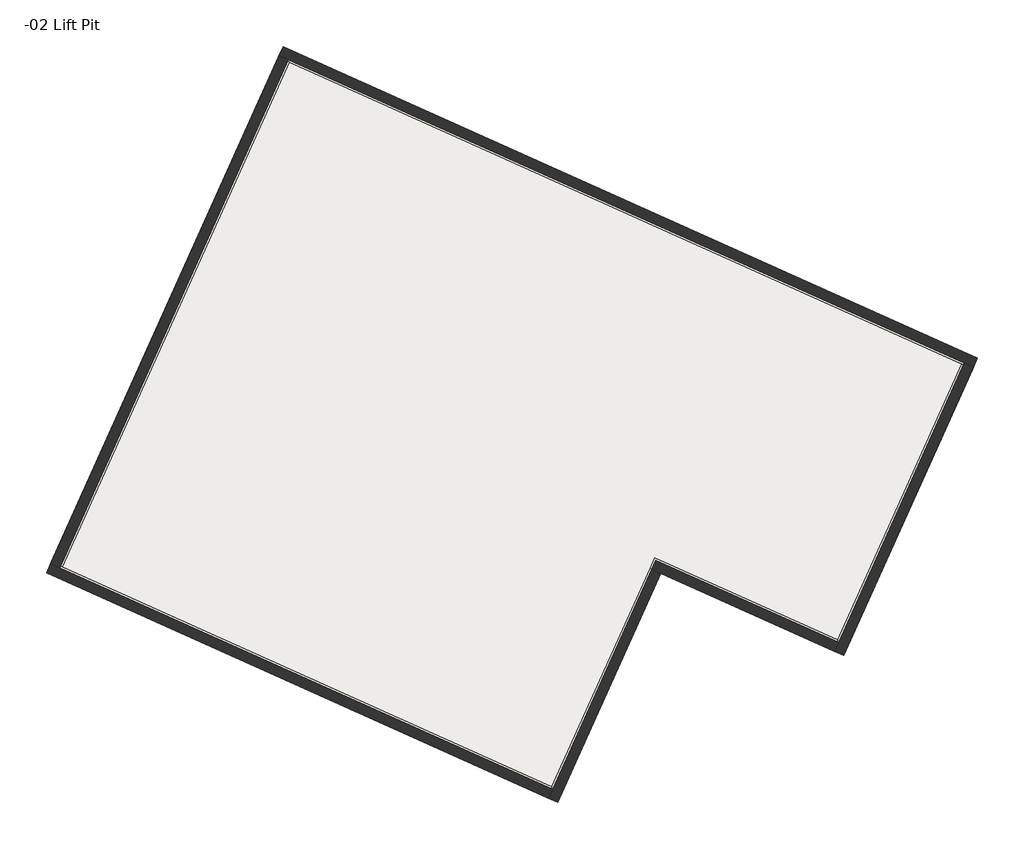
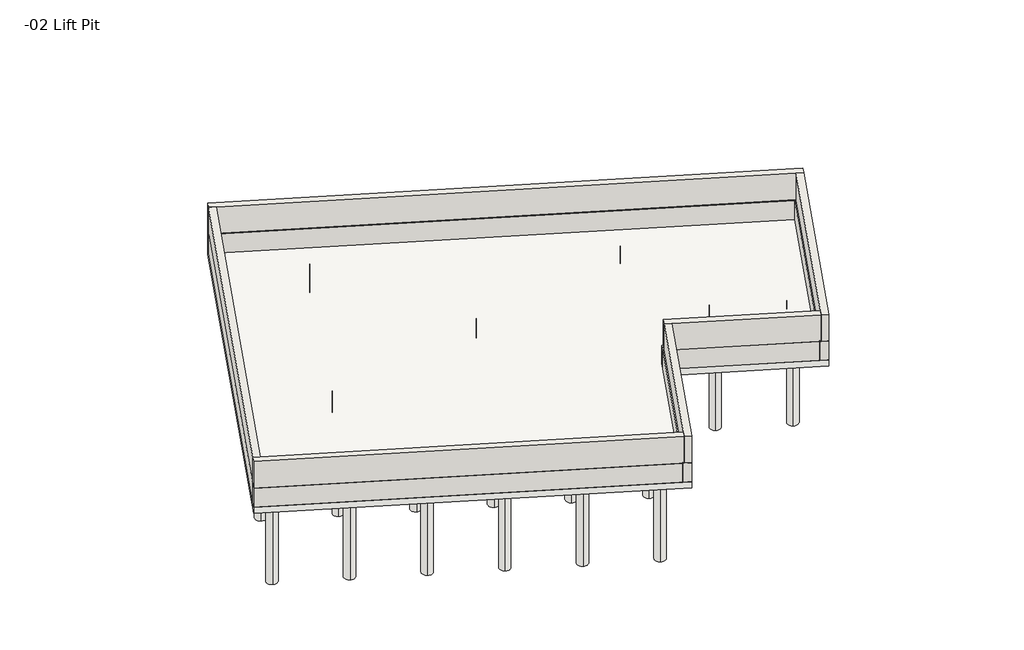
# One storey, incomplete: 29 slabs, 12 walls.
"""IFC4 building model written with IfcOpenShell, lengths in millimetres."""

from ifc_helpers import new_model, si_unit, point, frame, frame_2d, origin, place, context, project, spatial, polyline, circle_curve, trimmed, segment, composite_curve, outline, extrude, faceted_brep, element, save

model = new_model("IFC4")

# Units and contexts
model_context = context("Model", 3, world=origin())
ifc_project = project(units=[si_unit("LENGTHUNIT", "METRE", prefix="MILLI")], contexts=[model_context])

# Site, building, storey
site = spatial("IfcSite", under=ifc_project)
building = spatial("IfcBuilding", under=site)
storey = spatial("IfcBuildingStorey", under=building, Name="-02 Lift Pit", Elevation=-2133.6)

# Slabs
placement = place(None, origin())
element("IfcSlab", 1, ObjectType="10\" Foundation Slab", at=placement, inside=storey, context=model_context, shape_type="Brep", body=[
    faceted_brep([(61413.0546278, -13159.9258537, -2387.6), (57962.8673107, -20840.7, -2387.6), (53236.2370668, -18717.5078049, -2387.6), (50577.0429205, -24637.3804878, -2387.6), (37370.2819449, -18704.9317073, -2387.6), (43479.6634083, -5104.284878, -2387.6), (61413.0546278, -13159.9258537, -2133.6), (43479.6634083, -5104.284878, -2133.6), (43354.7697498, -5382.3219512, -2133.6), (37495.1756034, -18426.8946341, -2133.6), (37370.2819449, -18704.9317073, -2133.6), (50299.0058473, -24512.4868293, -2133.6), (50577.0429205, -24637.3804878, -2133.6), (53236.2370668, -18717.5078049, -2133.6), (57684.8302376, -20715.8063415, -2133.6), (57962.8673107, -20840.7, -2133.6), (61288.1609693, -13437.9629268, -2133.6)], [[[0, 1, 2, 3, 4, 5]], [[6, 7, 8, 9, 10, 11, 12, 13, 14, 15, 16]], [[1, 0, 6, 16, 15]], [[2, 1, 15, 14, 13]], [[3, 2, 13, 12]], [[4, 3, 12, 11, 10]], [[5, 4, 10, 9, 8, 7]], [[0, 5, 7, 6]]]),
])
element("IfcSlab", 2, ObjectType="Round In Situ Concrete Pile : 16\" Diameter 16'", at=placement, inside=storey, context=model_context, shape_type="SweptSolid", body=[
    extrude(outline(composite_curve([segment(trimmed(circle_curve(frame_2d((43939.0936522, -6313.0770732)), 203.2), [point((43855.8312132, -6498.435122))], [point((44022.3560912, -6127.7190244))], False, "CARTESIAN"), True, "CONTINUOUS"), segment(trimmed(circle_curve(frame_2d((43939.0936522, -6313.0770732)), 203.2), [point((44022.3560912, -6127.7190244))], [point((43855.8312132, -6498.435122))], False, "CARTESIAN"), True, "CONTINUOUS")], self_intersect=False)), frame((0.0, 0.0, -7264.4), z_axis=(0.0, 0.0, 1.0), x_axis=(1.0, 0.0, 0.0)), (0.0, 0.0, 1.0), 4876.8),
])
element("IfcSlab", 3, ObjectType="Round In Situ Concrete Pile : 16\" Diameter 16'", at=placement, inside=storey, context=model_context, shape_type="SweptSolid", body=[
    extrude(outline(composite_curve([segment(trimmed(circle_curve(frame_2d((46278.2460285, -7363.8193171)), 203.2), [point((46194.9835895, -7549.1773659))], [point((46361.5084675, -7178.4612683))], False, "CARTESIAN"), True, "CONTINUOUS"), segment(trimmed(circle_curve(frame_2d((46278.2460285, -7363.8193171)), 203.2), [point((46361.5084675, -7178.4612683))], [point((46194.9835895, -7549.1773659))], False, "CARTESIAN"), True, "CONTINUOUS")], self_intersect=False)), frame((0.0, 0.0, -7264.4), z_axis=(0.0, 0.0, 1.0), x_axis=(1.0, 0.0, 0.0)), (0.0, 0.0, 1.0), 4876.8),
])
element("IfcSlab", 4, ObjectType="Round In Situ Concrete Pile : 16\" Diameter 16'", at=placement, inside=storey, context=model_context, shape_type="SweptSolid", body=[
    extrude(outline(composite_curve([segment(trimmed(circle_curve(frame_2d((48617.3984048, -8414.561561)), 203.2), [point((48534.1359658, -8599.9196098))], [point((48700.6608438, -8229.2035122))], False, "CARTESIAN"), True, "CONTINUOUS"), segment(trimmed(circle_curve(frame_2d((48617.3984048, -8414.561561)), 203.2), [point((48700.6608438, -8229.2035122))], [point((48534.1359658, -8599.9196098))], False, "CARTESIAN"), True, "CONTINUOUS")], self_intersect=False)), frame((0.0, 0.0, -7264.4), z_axis=(0.0, 0.0, 1.0), x_axis=(1.0, 0.0, 0.0)), (0.0, 0.0, 1.0), 4876.8),
])
element("IfcSlab", 5, ObjectType="Round In Situ Concrete Pile : 16\" Diameter 16'", at=placement, inside=storey, context=model_context, shape_type="SweptSolid", body=[
    extrude(outline(composite_curve([segment(trimmed(circle_curve(frame_2d((50956.5507811, -9465.3038049)), 203.2), [point((50873.2883421, -9650.6618537))], [point((51039.8132202, -9279.9457561))], False, "CARTESIAN"), True, "CONTINUOUS"), segment(trimmed(circle_curve(frame_2d((50956.5507811, -9465.3038049)), 203.2), [point((51039.8132202, -9279.9457561))], [point((50873.2883421, -9650.6618537))], False, "CARTESIAN"), True, "CONTINUOUS")], self_intersect=False)), frame((0.0, 0.0, -7264.4), z_axis=(0.0, 0.0, 1.0), x_axis=(1.0, 0.0, 0.0)), (0.0, 0.0, 1.0), 4876.8),
])
element("IfcSlab", 6, ObjectType="Round In Situ Concrete Pile : 16\" Diameter 16'", at=placement, inside=storey, context=model_context, shape_type="SweptSolid", body=[
    extrude(outline(composite_curve([segment(trimmed(circle_curve(frame_2d((53295.7031574, -10516.0460488)), 203.2), [point((53212.4407184, -10701.4040976))], [point((53378.9655965, -10330.688))], False, "CARTESIAN"), True, "CONTINUOUS"), segment(trimmed(circle_curve(frame_2d((53295.7031574, -10516.0460488)), 203.2), [point((53378.9655965, -10330.688))], [point((53212.4407184, -10701.4040976))], False, "CARTESIAN"), True, "CONTINUOUS")], self_intersect=False)), frame((0.0, 0.0, -7264.4), z_axis=(0.0, 0.0, 1.0), x_axis=(1.0, 0.0, 0.0)), (0.0, 0.0, 1.0), 4876.8),
])
element("IfcSlab", 7, ObjectType="Round In Situ Concrete Pile : 16\" Diameter 16'", at=placement, inside=storey, context=model_context, shape_type="SweptSolid", body=[
    extrude(outline(composite_curve([segment(trimmed(circle_curve(frame_2d((55634.8555337, -11566.7882927)), 203.2), [point((55551.5930947, -11752.1463415))], [point((55718.1179728, -11381.4302439))], False, "CARTESIAN"), True, "CONTINUOUS"), segment(trimmed(circle_curve(frame_2d((55634.8555337, -11566.7882927)), 203.2), [point((55718.1179728, -11381.4302439))], [point((55551.5930947, -11752.1463415))], False, "CARTESIAN"), True, "CONTINUOUS")], self_intersect=False)), frame((0.0, 0.0, -7264.4), z_axis=(0.0, 0.0, 1.0), x_axis=(1.0, 0.0, 0.0)), (0.0, 0.0, 1.0), 4876.8),
])
element("IfcSlab", 8, ObjectType="Round In Situ Concrete Pile : 16\" Diameter 16'", at=placement, inside=storey, context=model_context, shape_type="SweptSolid", body=[
    extrude(outline(composite_curve([segment(trimmed(circle_curve(frame_2d((57974.00791, -12617.5305366)), 203.2), [point((57890.745471, -12802.8885854))], [point((58057.2703491, -12432.1724878))], False, "CARTESIAN"), True, "CONTINUOUS"), segment(trimmed(circle_curve(frame_2d((57974.00791, -12617.5305366)), 203.2), [point((58057.2703491, -12432.1724878))], [point((57890.745471, -12802.8885854))], False, "CARTESIAN"), True, "CONTINUOUS")], self_intersect=False)), frame((0.0, 0.0, -7264.4), z_axis=(0.0, 0.0, 1.0), x_axis=(1.0, 0.0, 0.0)), (0.0, 0.0, 1.0), 4876.8),
])
element("IfcSlab", 9, ObjectType="Round In Situ Concrete Pile : 16\" Diameter 16'", at=placement, inside=storey, context=model_context, shape_type="SweptSolid", body=[
    extrude(outline(composite_curve([segment(trimmed(circle_curve(frame_2d((60313.1602864, -13668.2727805)), 203.2), [point((60229.8978473, -13853.6308293))], [point((60396.4227254, -13482.9147317))], False, "CARTESIAN"), True, "CONTINUOUS"), segment(trimmed(circle_curve(frame_2d((60313.1602864, -13668.2727805)), 203.2), [point((60396.4227254, -13482.9147317))], [point((60229.8978473, -13853.6308293))], False, "CARTESIAN"), True, "CONTINUOUS")], self_intersect=False)), frame((0.0, 0.0, -7264.4), z_axis=(0.0, 0.0, 1.0), x_axis=(1.0, 0.0, 0.0)), (0.0, 0.0, 1.0), 4876.8),
])
element("IfcSlab", 10, ObjectType="Round In Situ Concrete Pile : 16\" Diameter 16'", at=placement, inside=storey, context=model_context, shape_type="SweptSolid", body=[
    extrude(outline(composite_curve([segment(trimmed(circle_curve(frame_2d((42440.3697498, -9649.5219512)), 203.2), [point((42357.1073107, -9834.88))], [point((42523.6321888, -9464.1639024))], False, "CARTESIAN"), True, "CONTINUOUS"), segment(trimmed(circle_curve(frame_2d((42440.3697498, -9649.5219512)), 203.2), [point((42523.6321888, -9464.1639024))], [point((42357.1073107, -9834.88))], False, "CARTESIAN"), True, "CONTINUOUS")], self_intersect=False)), frame((0.0, 0.0, -7264.4), z_axis=(0.0, 0.0, 1.0), x_axis=(1.0, 0.0, 0.0)), (0.0, 0.0, 1.0), 4876.8),
])
element("IfcSlab", 11, ObjectType="Round In Situ Concrete Pile : 16\" Diameter 16'", at=placement, inside=storey, context=model_context, shape_type="SweptSolid", body=[
    extrude(outline(composite_curve([segment(trimmed(circle_curve(frame_2d((44779.5221261, -10700.2641951)), 203.2), [point((44696.2596871, -10885.6222439))], [point((44862.7845651, -10514.9061463))], False, "CARTESIAN"), True, "CONTINUOUS"), segment(trimmed(circle_curve(frame_2d((44779.5221261, -10700.2641951)), 203.2), [point((44862.7845651, -10514.9061463))], [point((44696.2596871, -10885.6222439))], False, "CARTESIAN"), True, "CONTINUOUS")], self_intersect=False)), frame((0.0, 0.0, -7264.4), z_axis=(0.0, 0.0, 1.0), x_axis=(1.0, 0.0, 0.0)), (0.0, 0.0, 1.0), 4876.8),
])
element("IfcSlab", 12, ObjectType="Round In Situ Concrete Pile : 16\" Diameter 16'", at=placement, inside=storey, context=model_context, shape_type="SweptSolid", body=[
    extrude(outline(composite_curve([segment(trimmed(circle_curve(frame_2d((47118.6745024, -11751.006439)), 203.2), [point((47035.4120634, -11936.3644878))], [point((47201.9369414, -11565.6483902))], False, "CARTESIAN"), True, "CONTINUOUS"), segment(trimmed(circle_curve(frame_2d((47118.6745024, -11751.006439)), 203.2), [point((47201.9369414, -11565.6483902))], [point((47035.4120634, -11936.3644878))], False, "CARTESIAN"), True, "CONTINUOUS")], self_intersect=False)), frame((0.0, 0.0, -7264.4), z_axis=(0.0, 0.0, 1.0), x_axis=(1.0, 0.0, 0.0)), (0.0, 0.0, 1.0), 4876.8),
])
element("IfcSlab", 13, ObjectType="Round In Situ Concrete Pile : 16\" Diameter 16'", at=placement, inside=storey, context=model_context, shape_type="SweptSolid", body=[
    extrude(outline(composite_curve([segment(trimmed(circle_curve(frame_2d((49457.8268787, -12801.7486829)), 203.2), [point((49374.5644397, -12987.1067317))], [point((49541.0893177, -12616.3906341))], False, "CARTESIAN"), True, "CONTINUOUS"), segment(trimmed(circle_curve(frame_2d((49457.8268787, -12801.7486829)), 203.2), [point((49541.0893177, -12616.3906341))], [point((49374.5644397, -12987.1067317))], False, "CARTESIAN"), True, "CONTINUOUS")], self_intersect=False)), frame((0.0, 0.0, -7264.4), z_axis=(0.0, 0.0, 1.0), x_axis=(1.0, 0.0, 0.0)), (0.0, 0.0, 1.0), 4876.8),
])
element("IfcSlab", 14, ObjectType="Round In Situ Concrete Pile : 16\" Diameter 16'", at=placement, inside=storey, context=model_context, shape_type="SweptSolid", body=[
    extrude(outline(composite_curve([segment(trimmed(circle_curve(frame_2d((51796.979255, -13852.4909268)), 203.2), [point((51713.716816, -14037.8489756))], [point((51880.241694, -13667.132878))], False, "CARTESIAN"), True, "CONTINUOUS"), segment(trimmed(circle_curve(frame_2d((51796.979255, -13852.4909268)), 203.2), [point((51880.241694, -13667.132878))], [point((51713.716816, -14037.8489756))], False, "CARTESIAN"), True, "CONTINUOUS")], self_intersect=False)), frame((0.0, 0.0, -7264.4), z_axis=(0.0, 0.0, 1.0), x_axis=(1.0, 0.0, 0.0)), (0.0, 0.0, 1.0), 4876.8),
])
element("IfcSlab", 15, ObjectType="Round In Situ Concrete Pile : 16\" Diameter 16'", at=placement, inside=storey, context=model_context, shape_type="SweptSolid", body=[
    extrude(outline(composite_curve([segment(trimmed(circle_curve(frame_2d((54136.1316313, -14903.2331707)), 203.2), [point((54052.8691923, -15088.5912195))], [point((54219.3940703, -14717.875122))], False, "CARTESIAN"), True, "CONTINUOUS"), segment(trimmed(circle_curve(frame_2d((54136.1316313, -14903.2331707)), 203.2), [point((54219.3940703, -14717.875122))], [point((54052.8691923, -15088.5912195))], False, "CARTESIAN"), True, "CONTINUOUS")], self_intersect=False)), frame((0.0, 0.0, -7264.4), z_axis=(0.0, 0.0, 1.0), x_axis=(1.0, 0.0, 0.0)), (0.0, 0.0, 1.0), 4876.8),
])
element("IfcSlab", 16, ObjectType="Round In Situ Concrete Pile : 16\" Diameter 16'", at=placement, inside=storey, context=model_context, shape_type="SweptSolid", body=[
    extrude(outline(composite_curve([segment(trimmed(circle_curve(frame_2d((56475.2840076, -15953.9754146)), 203.2), [point((56392.0215686, -16139.3334634))], [point((56558.5464466, -15768.6173659))], False, "CARTESIAN"), True, "CONTINUOUS"), segment(trimmed(circle_curve(frame_2d((56475.2840076, -15953.9754146)), 203.2), [point((56558.5464466, -15768.6173659))], [point((56392.0215686, -16139.3334634))], False, "CARTESIAN"), True, "CONTINUOUS")], self_intersect=False)), frame((0.0, 0.0, -7264.4), z_axis=(0.0, 0.0, 1.0), x_axis=(1.0, 0.0, 0.0)), (0.0, 0.0, 1.0), 4876.8),
])
element("IfcSlab", 17, ObjectType="Round In Situ Concrete Pile : 16\" Diameter 16'", at=placement, inside=storey, context=model_context, shape_type="SweptSolid", body=[
    extrude(outline(composite_curve([segment(trimmed(circle_curve(frame_2d((58814.4363839, -17004.7176585)), 203.2), [point((58731.1739449, -17190.0757073))], [point((58897.6988229, -16819.3596098))], False, "CARTESIAN"), True, "CONTINUOUS"), segment(trimmed(circle_curve(frame_2d((58814.4363839, -17004.7176585)), 203.2), [point((58897.6988229, -16819.3596098))], [point((58731.1739449, -17190.0757073))], False, "CARTESIAN"), True, "CONTINUOUS")], self_intersect=False)), frame((0.0, 0.0, -7264.4), z_axis=(0.0, 0.0, 1.0), x_axis=(1.0, 0.0, 0.0)), (0.0, 0.0, 1.0), 4876.8),
])
element("IfcSlab", 18, ObjectType="Round In Situ Concrete Pile : 16\" Diameter 16'", at=placement, inside=storey, context=model_context, shape_type="SweptSolid", body=[
    extrude(outline(composite_curve([segment(trimmed(circle_curve(frame_2d((40941.6458473, -12985.9668293)), 203.2), [point((40858.3834083, -13171.324878))], [point((41024.9082864, -12800.6087805))], False, "CARTESIAN"), True, "CONTINUOUS"), segment(trimmed(circle_curve(frame_2d((40941.6458473, -12985.9668293)), 203.2), [point((41024.9082864, -12800.6087805))], [point((40858.3834083, -13171.324878))], False, "CARTESIAN"), True, "CONTINUOUS")], self_intersect=False)), frame((0.0, 0.0, -7264.4), z_axis=(0.0, 0.0, 1.0), x_axis=(1.0, 0.0, 0.0)), (0.0, 0.0, 1.0), 4876.8),
])
element("IfcSlab", 19, ObjectType="Round In Situ Concrete Pile : 16\" Diameter 16'", at=placement, inside=storey, context=model_context, shape_type="SweptSolid", body=[
    extrude(outline(composite_curve([segment(trimmed(circle_curve(frame_2d((43280.7982236, -14036.7090732)), 203.2), [point((43197.5357846, -14222.067122))], [point((43364.0606627, -13851.3510244))], False, "CARTESIAN"), True, "CONTINUOUS"), segment(trimmed(circle_curve(frame_2d((43280.7982236, -14036.7090732)), 203.2), [point((43364.0606627, -13851.3510244))], [point((43197.5357846, -14222.067122))], False, "CARTESIAN"), True, "CONTINUOUS")], self_intersect=False)), frame((0.0, 0.0, -7264.4), z_axis=(0.0, 0.0, 1.0), x_axis=(1.0, 0.0, 0.0)), (0.0, 0.0, 1.0), 4876.8),
])
element("IfcSlab", 20, ObjectType="Round In Situ Concrete Pile : 16\" Diameter 16'", at=placement, inside=storey, context=model_context, shape_type="SweptSolid", body=[
    extrude(outline(composite_curve([segment(trimmed(circle_curve(frame_2d((45619.9505999, -15087.4513171)), 203.2), [point((45536.6881609, -15272.8093659))], [point((45703.213039, -14902.0932683))], False, "CARTESIAN"), True, "CONTINUOUS"), segment(trimmed(circle_curve(frame_2d((45619.9505999, -15087.4513171)), 203.2), [point((45703.213039, -14902.0932683))], [point((45536.6881609, -15272.8093659))], False, "CARTESIAN"), True, "CONTINUOUS")], self_intersect=False)), frame((0.0, 0.0, -7264.4), z_axis=(0.0, 0.0, 1.0), x_axis=(1.0, 0.0, 0.0)), (0.0, 0.0, 1.0), 4876.8),
])
element("IfcSlab", 21, ObjectType="Round In Situ Concrete Pile : 16\" Diameter 16'", at=placement, inside=storey, context=model_context, shape_type="SweptSolid", body=[
    extrude(outline(composite_curve([segment(trimmed(circle_curve(frame_2d((47959.1029762, -16138.193561)), 203.2), [point((47875.8405372, -16323.5516098))], [point((48042.3654153, -15952.8355122))], False, "CARTESIAN"), True, "CONTINUOUS"), segment(trimmed(circle_curve(frame_2d((47959.1029762, -16138.193561)), 203.2), [point((48042.3654153, -15952.8355122))], [point((47875.8405372, -16323.5516098))], False, "CARTESIAN"), True, "CONTINUOUS")], self_intersect=False)), frame((0.0, 0.0, -7264.4), z_axis=(0.0, 0.0, 1.0), x_axis=(1.0, 0.0, 0.0)), (0.0, 0.0, 1.0), 4876.8),
])
element("IfcSlab", 22, ObjectType="Round In Situ Concrete Pile : 16\" Diameter 16'", at=placement, inside=storey, context=model_context, shape_type="SweptSolid", body=[
    extrude(outline(composite_curve([segment(trimmed(circle_curve(frame_2d((50298.2553526, -17188.9358049)), 203.2), [point((50214.9929135, -17374.2938537))], [point((50381.5177916, -17003.5777561))], False, "CARTESIAN"), True, "CONTINUOUS"), segment(trimmed(circle_curve(frame_2d((50298.2553526, -17188.9358049)), 203.2), [point((50381.5177916, -17003.5777561))], [point((50214.9929135, -17374.2938537))], False, "CARTESIAN"), True, "CONTINUOUS")], self_intersect=False)), frame((0.0, 0.0, -7264.4), z_axis=(0.0, 0.0, 1.0), x_axis=(1.0, 0.0, 0.0)), (0.0, 0.0, 1.0), 4876.8),
])
element("IfcSlab", 23, ObjectType="Round In Situ Concrete Pile : 16\" Diameter 16'", at=placement, inside=storey, context=model_context, shape_type="SweptSolid", body=[
    extrude(outline(composite_curve([segment(trimmed(circle_curve(frame_2d((52637.4077289, -18239.6780488)), 203.2), [point((52554.1452898, -18425.0360976))], [point((52720.6701679, -18054.32))], False, "CARTESIAN"), True, "CONTINUOUS"), segment(trimmed(circle_curve(frame_2d((52637.4077289, -18239.6780488)), 203.2), [point((52720.6701679, -18054.32))], [point((52554.1452898, -18425.0360976))], False, "CARTESIAN"), True, "CONTINUOUS")], self_intersect=False)), frame((0.0, 0.0, -7264.4), z_axis=(0.0, 0.0, 1.0), x_axis=(1.0, 0.0, 0.0)), (0.0, 0.0, 1.0), 4876.8),
])
element("IfcSlab", 24, ObjectType="Round In Situ Concrete Pile : 16\" Diameter 16'", at=placement, inside=storey, context=model_context, shape_type="SweptSolid", body=[
    extrude(outline(composite_curve([segment(trimmed(circle_curve(frame_2d((39442.9219449, -16322.4117073)), 203.2), [point((39359.6595059, -16507.7697561))], [point((39526.1843839, -16137.0536585))], False, "CARTESIAN"), True, "CONTINUOUS"), segment(trimmed(circle_curve(frame_2d((39442.9219449, -16322.4117073)), 203.2), [point((39526.1843839, -16137.0536585))], [point((39359.6595059, -16507.7697561))], False, "CARTESIAN"), True, "CONTINUOUS")], self_intersect=False)), frame((0.0, 0.0, -7264.4), z_axis=(0.0, 0.0, 1.0), x_axis=(1.0, 0.0, 0.0)), (0.0, 0.0, 1.0), 4876.8),
])
element("IfcSlab", 25, ObjectType="Round In Situ Concrete Pile : 16\" Diameter 16'", at=placement, inside=storey, context=model_context, shape_type="SweptSolid", body=[
    extrude(outline(composite_curve([segment(trimmed(circle_curve(frame_2d((41782.0743212, -17373.1539512)), 203.2), [point((41698.8118822, -17558.512))], [point((41865.3367602, -17187.7959024))], False, "CARTESIAN"), True, "CONTINUOUS"), segment(trimmed(circle_curve(frame_2d((41782.0743212, -17373.1539512)), 203.2), [point((41865.3367602, -17187.7959024))], [point((41698.8118822, -17558.512))], False, "CARTESIAN"), True, "CONTINUOUS")], self_intersect=False)), frame((0.0, 0.0, -7264.4), z_axis=(0.0, 0.0, 1.0), x_axis=(1.0, 0.0, 0.0)), (0.0, 0.0, 1.0), 4876.8),
])
element("IfcSlab", 26, ObjectType="Round In Situ Concrete Pile : 16\" Diameter 16'", at=placement, inside=storey, context=model_context, shape_type="SweptSolid", body=[
    extrude(outline(composite_curve([segment(trimmed(circle_curve(frame_2d((44121.2266975, -18423.8961951)), 203.2), [point((44037.9642585, -18609.2542439))], [point((44204.4891365, -18238.5381463))], False, "CARTESIAN"), True, "CONTINUOUS"), segment(trimmed(circle_curve(frame_2d((44121.2266975, -18423.8961951)), 203.2), [point((44204.4891365, -18238.5381463))], [point((44037.9642585, -18609.2542439))], False, "CARTESIAN"), True, "CONTINUOUS")], self_intersect=False)), frame((0.0, 0.0, -7264.4), z_axis=(0.0, 0.0, 1.0), x_axis=(1.0, 0.0, 0.0)), (0.0, 0.0, 1.0), 4876.8),
])
element("IfcSlab", 27, ObjectType="Round In Situ Concrete Pile : 16\" Diameter 16'", at=placement, inside=storey, context=model_context, shape_type="SweptSolid", body=[
    extrude(outline(composite_curve([segment(trimmed(circle_curve(frame_2d((46460.3790738, -19474.638439)), 203.2), [point((46377.1166348, -19659.9964878))], [point((46543.6415128, -19289.2803902))], False, "CARTESIAN"), True, "CONTINUOUS"), segment(trimmed(circle_curve(frame_2d((46460.3790738, -19474.638439)), 203.2), [point((46543.6415128, -19289.2803902))], [point((46377.1166348, -19659.9964878))], False, "CARTESIAN"), True, "CONTINUOUS")], self_intersect=False)), frame((0.0, 0.0, -7264.4), z_axis=(0.0, 0.0, 1.0), x_axis=(1.0, 0.0, 0.0)), (0.0, 0.0, 1.0), 4876.8),
])
element("IfcSlab", 28, ObjectType="Round In Situ Concrete Pile : 16\" Diameter 16'", at=placement, inside=storey, context=model_context, shape_type="SweptSolid", body=[
    extrude(outline(composite_curve([segment(trimmed(circle_curve(frame_2d((48799.5314501, -20525.3806829)), 203.2), [point((48716.2690111, -20710.7387317))], [point((48882.7938891, -20340.0226341))], False, "CARTESIAN"), True, "CONTINUOUS"), segment(trimmed(circle_curve(frame_2d((48799.5314501, -20525.3806829)), 203.2), [point((48882.7938891, -20340.0226341))], [point((48716.2690111, -20710.7387317))], False, "CARTESIAN"), True, "CONTINUOUS")], self_intersect=False)), frame((0.0, 0.0, -7264.4), z_axis=(0.0, 0.0, 1.0), x_axis=(1.0, 0.0, 0.0)), (0.0, 0.0, 1.0), 4876.8),
])
element("IfcSlab", 29, ObjectType="Round In Situ Concrete Pile : 16\" Diameter 16'", at=placement, inside=storey, context=model_context, shape_type="SweptSolid", body=[
    extrude(outline(composite_curve([segment(trimmed(circle_curve(frame_2d((51138.6838264, -21576.1229268)), 203.2), [point((51055.4213874, -21761.4809756))], [point((51221.9462654, -21390.764878))], False, "CARTESIAN"), True, "CONTINUOUS"), segment(trimmed(circle_curve(frame_2d((51138.6838264, -21576.1229268)), 203.2), [point((51221.9462654, -21390.764878))], [point((51055.4213874, -21761.4809756))], False, "CARTESIAN"), True, "CONTINUOUS")], self_intersect=False)), frame((0.0, 0.0, -7264.4), z_axis=(0.0, 0.0, 1.0), x_axis=(1.0, 0.0, 0.0)), (0.0, 0.0, 1.0), 4876.8),
])

# Walls
element("IfcWall", 30, ObjectType="RC Wall 10\"", at=placement, inside=storey, context=model_context, shape_type="Brep", body=[
    faceted_brep([(43375.5853595, -5335.982439, -1371.6), (43607.2829205, -5440.0604878, -1371.6), (61077.2790181, -13287.5453659, -1371.6), (61308.976579, -13391.6234146, -1371.6), (61308.976579, -13391.6234146, -304.8), (61077.2790181, -13287.5453659, -304.8), (43607.2829205, -5440.0604878, -304.8), (43375.5853595, -5335.982439, -304.8), (43479.6634083, -5104.284878, -1371.6), (43479.6634083, -5104.284878, -1193.8), (43479.6634083, -5104.284878, -304.8), (61413.0546278, -13159.9258537, -304.8), (61413.0546278, -13159.9258537, -1371.6)], [[[0, 1, 2, 3, 4, 5, 6, 7]], [[8, 9, 10, 11, 12]], [[3, 2, 1, 0, 8, 12]], [[7, 6, 5, 4, 11, 10]], [[4, 3, 12, 11]], [[0, 7, 10, 9, 8]]]),
])
element("IfcWall", 31, ObjectType="RC Wall 10\"", at=placement, inside=storey, context=model_context, shape_type="Brep", body=[
    faceted_brep([(61077.2790181, -13287.5453659, -1371.6), (57835.2477985, -20504.9243902, -1371.6), (57731.1697498, -20736.6219512, -1371.6), (57731.1697498, -20736.6219512, -304.8), (57835.2477985, -20504.9243902, -304.8), (61077.2790181, -13287.5453659, -304.8), (61308.976579, -13391.6234146, -1371.6), (61308.976579, -13391.6234146, -304.8), (57962.8673107, -20840.7, -304.8), (57962.8673107, -20840.7, -1371.6), (61288.1609693, -13437.9629268, -1371.6)], [[[0, 1, 2, 3, 4, 5]], [[6, 7, 8, 9, 10]], [[2, 1, 0, 6, 10, 9]], [[5, 4, 3, 8, 7]], [[0, 5, 7, 6]], [[3, 2, 9, 8]]]),
])
element("IfcWall", 32, ObjectType="RC Wall 10\"", at=placement, inside=storey, context=model_context, shape_type="Brep", body=[
    faceted_brep([(57835.2477985, -20504.9243902, -1371.6), (53108.6175546, -18381.7321951, -1371.6), (53108.6175546, -18381.7321951, -304.8), (57835.2477985, -20504.9243902, -304.8), (57731.1697498, -20736.6219512, -1371.6), (57731.1697498, -20736.6219512, -304.8), (53236.2370668, -18717.5078049, -304.8), (53004.5395059, -18613.4297561, -304.8), (53004.5395059, -18613.4297561, -1371.6), (53236.2370668, -18717.5078049, -1371.6), (57684.8302376, -20715.8063415, -1371.6)], [[[0, 1, 2, 3]], [[4, 5, 6, 7, 8, 9, 10]], [[1, 0, 4, 10, 9, 8]], [[3, 2, 7, 6, 5]], [[0, 3, 5, 4]], [[2, 1, 8, 7]]]),
])
element("IfcWall", 33, ObjectType="RC Wall 10\"", at=placement, inside=storey, context=model_context, shape_type="Brep", body=[
    faceted_brep([(53004.5395059, -18613.4297561, -1371.6), (50449.4234083, -24301.604878, -1371.6), (50345.3453595, -24533.302439, -1371.6), (50345.3453595, -24533.302439, -304.8), (50449.4234083, -24301.604878, -304.8), (53004.5395059, -18613.4297561, -304.8), (53236.2370668, -18717.5078049, -1371.6), (53236.2370668, -18717.5078049, -304.8), (50577.0429205, -24637.3804878, -304.8), (50577.0429205, -24637.3804878, -1371.6)], [[[0, 1, 2, 3, 4, 5]], [[6, 7, 8, 9]], [[2, 1, 0, 6, 9]], [[5, 4, 3, 8, 7]], [[0, 5, 7, 6]], [[3, 2, 9, 8]]]),
])
element("IfcWall", 34, ObjectType="RC Wall 10\"", at=placement, inside=storey, context=model_context, shape_type="Brep", body=[
    faceted_brep([(50449.4234083, -24301.604878, -1371.6), (37706.0575546, -18577.3121951, -1371.6), (37474.3599937, -18473.2341463, -1371.6), (37474.3599937, -18473.2341463, -304.8), (37706.0575546, -18577.3121951, -304.8), (50449.4234083, -24301.604878, -304.8), (50345.3453595, -24533.302439, -1371.6), (50345.3453595, -24533.302439, -304.8), (37370.2819449, -18704.9317073, -304.8), (37370.2819449, -18704.9317073, -1193.8), (37370.2819449, -18704.9317073, -1371.6), (50299.0058473, -24512.4868293, -1371.6)], [[[0, 1, 2, 3, 4, 5]], [[6, 7, 8, 9, 10, 11]], [[2, 1, 0, 6, 11, 10]], [[5, 4, 3, 8, 7]], [[0, 5, 7, 6]], [[3, 2, 10, 9, 8]]]),
])
element("IfcWall", 35, ObjectType="RC Wall 10\"", at=placement, inside=storey, context=model_context, shape_type="Brep", body=[
    faceted_brep([(37706.0575546, -18577.3121951, -1371.6), (43607.2829205, -5440.0604878, -1371.6), (43607.2829205, -5440.0604878, -304.8), (37706.0575546, -18577.3121951, -304.8), (37474.3599937, -18473.2341463, -1371.6), (37474.3599937, -18473.2341463, -304.8), (43375.5853595, -5335.982439, -304.8), (43375.5853595, -5335.982439, -1371.6), (43354.7697498, -5382.3219512, -1371.6), (37495.1756034, -18426.8946341, -1371.6)], [[[0, 1, 2, 3]], [[4, 5, 6, 7, 8, 9]], [[1, 0, 4, 9, 8, 7]], [[3, 2, 6, 5]], [[2, 1, 7, 6]], [[0, 3, 5, 4]]]),
])
element("IfcWall", 36, ObjectType="RC Wall 12\"", at=placement, inside=storey, context=model_context, shape_type="Brep", body=[
    faceted_brep([(43354.7697498, -5382.3219512, -2133.6), (43632.8068229, -5507.2156098, -2133.6), (61010.1238961, -13313.0692683, -2133.6), (61288.1609693, -13437.9629268, -2133.6), (61288.1609693, -13437.9629268, -1371.6), (61010.1238961, -13313.0692683, -1371.6), (43632.8068229, -5507.2156098, -1371.6), (43354.7697498, -5382.3219512, -1371.6), (43479.6634083, -5104.284878, -2133.6), (43479.6634083, -5104.284878, -1371.6), (61413.0546278, -13159.9258537, -1371.6), (61413.0546278, -13159.9258537, -2133.6), (61308.976579, -13391.6234146, -1371.6), (43375.5853595, -5335.982439, -1371.6)], [[[0, 1, 2, 3, 4, 5, 6, 7]], [[8, 9, 10, 11]], [[3, 2, 1, 0, 8, 11]], [[7, 6, 5, 4, 12, 10, 9, 13]], [[4, 3, 11, 10, 12]], [[0, 7, 13, 9, 8]]]),
])
element("IfcWall", 37, ObjectType="RC Wall 12\"", at=placement, inside=storey, context=model_context, shape_type="Brep", body=[
    faceted_brep([(61010.1238961, -13313.0692683, -2133.6), (57809.7238961, -20437.7692683, -2133.6), (57684.8302376, -20715.8063415, -2133.6), (57684.8302376, -20715.8063415, -1371.6), (57809.7238961, -20437.7692683, -1371.6), (61010.1238961, -13313.0692683, -1371.6), (61288.1609693, -13437.9629268, -2133.6), (61288.1609693, -13437.9629268, -1371.6), (57962.8673107, -20840.7, -1371.6), (57962.8673107, -20840.7, -2133.6), (57731.1697498, -20736.6219512, -1371.6)], [[[0, 1, 2, 3, 4, 5]], [[6, 7, 8, 9]], [[2, 1, 0, 6, 9]], [[5, 4, 3, 10, 8, 7]], [[0, 5, 7, 6]], [[3, 2, 9, 8, 10]]]),
])
element("IfcWall", 38, ObjectType="RC Wall 12\"", at=placement, inside=storey, context=model_context, shape_type="Brep", body=[
    faceted_brep([(57809.7238961, -20437.7692683, -2133.6), (53083.0936522, -18314.5770732, -2133.6), (53083.0936522, -18314.5770732, -1371.6), (57809.7238961, -20437.7692683, -1371.6), (57684.8302376, -20715.8063415, -2133.6), (57684.8302376, -20715.8063415, -1371.6), (53236.2370668, -18717.5078049, -1371.6), (53004.5395059, -18613.4297561, -1371.6), (52958.1999937, -18592.6141463, -1371.6), (52958.1999937, -18592.6141463, -2133.6), (53236.2370668, -18717.5078049, -2133.6)], [[[0, 1, 2, 3]], [[4, 5, 6, 7, 8, 9, 10]], [[1, 0, 4, 10, 9]], [[3, 2, 8, 7, 6, 5]], [[0, 3, 5, 4]], [[2, 1, 9, 8]]]),
])
element("IfcWall", 39, ObjectType="RC Wall 12\"", at=placement, inside=storey, context=model_context, shape_type="Brep", body=[
    faceted_brep([(52958.1999937, -18592.6141463, -2133.6), (50423.8995059, -24234.4497561, -2133.6), (50299.0058473, -24512.4868293, -2133.6), (50299.0058473, -24512.4868293, -1371.6), (50423.8995059, -24234.4497561, -1371.6), (52958.1999937, -18592.6141463, -1371.6), (53236.2370668, -18717.5078049, -2133.6), (53236.2370668, -18717.5078049, -1371.6), (50577.0429205, -24637.3804878, -1371.6), (50577.0429205, -24637.3804878, -2133.6), (50345.3453595, -24533.302439, -1371.6), (53004.5395059, -18613.4297561, -1371.6)], [[[0, 1, 2, 3, 4, 5]], [[6, 7, 8, 9]], [[2, 1, 0, 6, 9]], [[5, 4, 3, 10, 8, 7, 11]], [[0, 5, 11, 7, 6]], [[3, 2, 9, 8, 10]]]),
])
element("IfcWall", 40, ObjectType="RC Wall 12\"", at=placement, inside=storey, context=model_context, shape_type="Brep", body=[
    faceted_brep([(50423.8995059, -24234.4497561, -2133.6), (37773.2126766, -18551.7882927, -2133.6), (37495.1756034, -18426.8946341, -2133.6), (37495.1756034, -18426.8946341, -1371.6), (37773.2126766, -18551.7882927, -1371.6), (50423.8995059, -24234.4497561, -1371.6), (50299.0058473, -24512.4868293, -2133.6), (50299.0058473, -24512.4868293, -1371.6), (37370.2819449, -18704.9317073, -1371.6), (37370.2819449, -18704.9317073, -2133.6), (37474.3599937, -18473.2341463, -1371.6)], [[[0, 1, 2, 3, 4, 5]], [[6, 7, 8, 9]], [[2, 1, 0, 6, 9]], [[5, 4, 3, 10, 8, 7]], [[0, 5, 7, 6]], [[3, 2, 9, 8, 10]]]),
])
element("IfcWall", 41, ObjectType="RC Wall 12\"", at=placement, inside=storey, context=model_context, shape_type="SweptSolid", body=[
    extrude(outline(polyline([(43632.8068229, -5507.2156098), (37773.2126766, -18551.7882927), (37495.1756034, -18426.8946341), (43354.7697498, -5382.3219512), (43632.8068229, -5507.2156098)])), frame((0.0, 0.0, -2133.6), z_axis=(0.0, 0.0, 1.0), x_axis=(1.0, 0.0, 0.0)), (0.0, 0.0, 1.0), 762.0),
])

save(model, "model.ifc")
